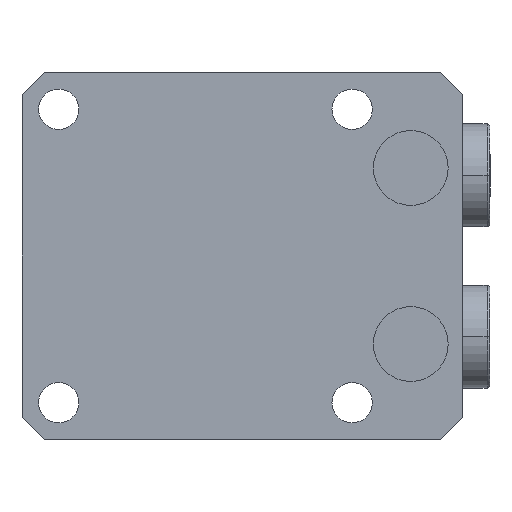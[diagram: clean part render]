
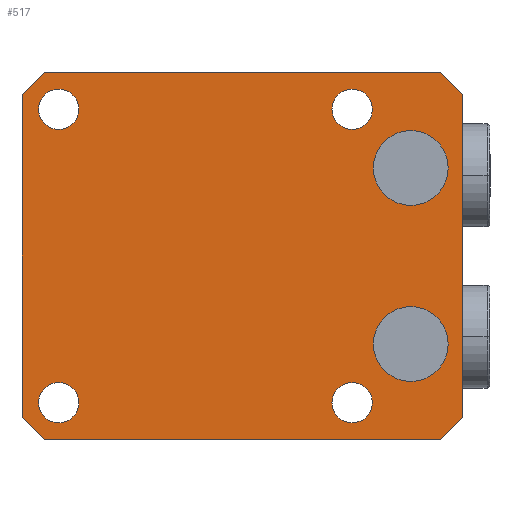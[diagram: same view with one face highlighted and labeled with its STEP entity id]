
A CAD part, front view. The second image highlights one B-rep face of the part: STEP entity #517.
In plain terms, the highlighted planar face has unit normal (0, -1, 0).
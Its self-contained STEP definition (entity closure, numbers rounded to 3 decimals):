
#196=PLANE('',#4556);
#297=FACE_BOUND('',#1014,.T.);
#298=FACE_BOUND('',#1015,.T.);
#299=FACE_BOUND('',#1016,.T.);
#300=FACE_BOUND('',#1017,.T.);
#301=FACE_BOUND('',#1018,.T.);
#302=FACE_BOUND('',#1019,.T.);
#303=FACE_BOUND('',#1020,.T.);
#517=ADVANCED_FACE('',(#297,#298,#299,#300,#301,#302,#303),#196,.T.);
#1014=EDGE_LOOP('',(#2189,#2190));
#1015=EDGE_LOOP('',(#2191,#2192));
#1016=EDGE_LOOP('',(#2193,#2194));
#1017=EDGE_LOOP('',(#2195,#2196));
#1018=EDGE_LOOP('',(#2197,#2198));
#1019=EDGE_LOOP('',(#2199,#2200));
#1020=EDGE_LOOP('',(#2201,#2202,#2203,#2204,#2205,#2206,#2207,#2208));
#1310=LINE('',#6876,#1640);
#1318=LINE('',#6896,#1648);
#1326=LINE('',#6911,#1656);
#1331=LINE('',#6922,#1661);
#1337=LINE('',#6939,#1667);
#1338=LINE('',#6940,#1668);
#1339=LINE('',#6941,#1669);
#1340=LINE('',#6942,#1670);
#1640=VECTOR('',#5260,1.);
#1648=VECTOR('',#5270,1.);
#1656=VECTOR('',#5280,1.);
#1661=VECTOR('',#5287,1.);
#1667=VECTOR('',#5299,1.);
#1668=VECTOR('',#5300,1.);
#1669=VECTOR('',#5301,1.);
#1670=VECTOR('',#5302,1.);
#2189=ORIENTED_EDGE('',*,*,#3757,.F.);
#2190=ORIENTED_EDGE('',*,*,#3608,.F.);
#2191=ORIENTED_EDGE('',*,*,#3758,.F.);
#2192=ORIENTED_EDGE('',*,*,#3612,.F.);
#2193=ORIENTED_EDGE('',*,*,#3726,.T.);
#2194=ORIENTED_EDGE('',*,*,#3669,.T.);
#2195=ORIENTED_EDGE('',*,*,#3722,.T.);
#2196=ORIENTED_EDGE('',*,*,#3677,.T.);
#2197=ORIENTED_EDGE('',*,*,#3720,.T.);
#2198=ORIENTED_EDGE('',*,*,#3681,.T.);
#2199=ORIENTED_EDGE('',*,*,#3724,.T.);
#2200=ORIENTED_EDGE('',*,*,#3673,.T.);
#2201=ORIENTED_EDGE('',*,*,#3750,.F.);
#2202=ORIENTED_EDGE('',*,*,#3759,.T.);
#2203=ORIENTED_EDGE('',*,*,#3728,.F.);
#2204=ORIENTED_EDGE('',*,*,#3760,.T.);
#2205=ORIENTED_EDGE('',*,*,#3737,.F.);
#2206=ORIENTED_EDGE('',*,*,#3761,.T.);
#2207=ORIENTED_EDGE('',*,*,#3745,.F.);
#2208=ORIENTED_EDGE('',*,*,#3762,.T.);
#3180=VERTEX_POINT('',#6395);
#3181=VERTEX_POINT('',#6397);
#3184=VERTEX_POINT('',#6404);
#3185=VERTEX_POINT('',#6406);
#3235=VERTEX_POINT('',#6622);
#3236=VERTEX_POINT('',#6623);
#3239=VERTEX_POINT('',#6631);
#3240=VERTEX_POINT('',#6632);
#3243=VERTEX_POINT('',#6640);
#3244=VERTEX_POINT('',#6641);
#3247=VERTEX_POINT('',#6649);
#3248=VERTEX_POINT('',#6650);
#3275=VERTEX_POINT('',#6877);
#3276=VERTEX_POINT('',#6878);
#3282=VERTEX_POINT('',#6897);
#3283=VERTEX_POINT('',#6898);
#3288=VERTEX_POINT('',#6912);
#3289=VERTEX_POINT('',#6913);
#3292=VERTEX_POINT('',#6921);
#3293=VERTEX_POINT('',#6923);
#3608=EDGE_CURVE('',#3180,#3181,#4203,.T.);
#3612=EDGE_CURVE('',#3184,#3185,#4205,.T.);
#3669=EDGE_CURVE('',#3235,#3236,#4221,.T.);
#3673=EDGE_CURVE('',#3239,#3240,#4223,.T.);
#3677=EDGE_CURVE('',#3243,#3244,#4225,.T.);
#3681=EDGE_CURVE('',#3247,#3248,#4227,.T.);
#3720=EDGE_CURVE('',#3248,#3247,#4235,.T.);
#3722=EDGE_CURVE('',#3244,#3243,#4237,.T.);
#3724=EDGE_CURVE('',#3240,#3239,#4239,.T.);
#3726=EDGE_CURVE('',#3236,#3235,#4241,.T.);
#3728=EDGE_CURVE('',#3275,#3276,#1310,.T.);
#3737=EDGE_CURVE('',#3282,#3283,#1318,.T.);
#3745=EDGE_CURVE('',#3288,#3289,#1326,.T.);
#3750=EDGE_CURVE('',#3292,#3293,#1331,.T.);
#3757=EDGE_CURVE('',#3181,#3180,#4243,.T.);
#3758=EDGE_CURVE('',#3185,#3184,#4244,.T.);
#3759=EDGE_CURVE('',#3292,#3276,#1337,.T.);
#3760=EDGE_CURVE('',#3275,#3283,#1338,.T.);
#3761=EDGE_CURVE('',#3282,#3289,#1339,.T.);
#3762=EDGE_CURVE('',#3288,#3293,#1340,.T.);
#4203=CIRCLE('',#4482,5.1);
#4205=CIRCLE('',#4485,5.1);
#4221=CIRCLE('',#4513,2.75);
#4223=CIRCLE('',#4516,2.75);
#4225=CIRCLE('',#4519,2.75);
#4227=CIRCLE('',#4522,2.75);
#4235=CIRCLE('',#4538,2.75);
#4237=CIRCLE('',#4541,2.75);
#4239=CIRCLE('',#4544,2.75);
#4241=CIRCLE('',#4547,2.75);
#4243=CIRCLE('',#4554,5.1);
#4244=CIRCLE('',#4555,5.1);
#4482=AXIS2_PLACEMENT_3D('',#6396,#5073,#5074);
#4485=AXIS2_PLACEMENT_3D('',#6405,#5081,#5082);
#4513=AXIS2_PLACEMENT_3D('',#6621,#5158,#5159);
#4516=AXIS2_PLACEMENT_3D('',#6630,#5166,#5167);
#4519=AXIS2_PLACEMENT_3D('',#6639,#5174,#5175);
#4522=AXIS2_PLACEMENT_3D('',#6648,#5182,#5183);
#4538=AXIS2_PLACEMENT_3D('',#6864,#5236,#5237);
#4541=AXIS2_PLACEMENT_3D('',#6867,#5242,#5243);
#4544=AXIS2_PLACEMENT_3D('',#6870,#5248,#5249);
#4547=AXIS2_PLACEMENT_3D('',#6873,#5254,#5255);
#4554=AXIS2_PLACEMENT_3D('',#6937,#5295,#5296);
#4555=AXIS2_PLACEMENT_3D('',#6938,#5297,#5298);
#4556=AXIS2_PLACEMENT_3D('',#6943,#5303,#5304);
#5073=DIRECTION('',(0.,-1.,0.));
#5074=DIRECTION('',(0.,0.,-1.));
#5081=DIRECTION('',(0.,-1.,0.));
#5082=DIRECTION('',(0.,0.,-1.));
#5158=DIRECTION('',(0.,1.,0.));
#5159=DIRECTION('',(0.,0.,-1.));
#5166=DIRECTION('',(0.,1.,0.));
#5167=DIRECTION('',(0.,0.,-1.));
#5174=DIRECTION('',(0.,1.,0.));
#5175=DIRECTION('',(0.,0.,-1.));
#5182=DIRECTION('',(0.,1.,0.));
#5183=DIRECTION('',(0.,0.,-1.));
#5236=DIRECTION('',(0.,1.,0.));
#5237=DIRECTION('',(0.,0.,-1.));
#5242=DIRECTION('',(0.,1.,0.));
#5243=DIRECTION('',(0.,0.,-1.));
#5248=DIRECTION('',(0.,1.,0.));
#5249=DIRECTION('',(0.,0.,-1.));
#5254=DIRECTION('',(0.,1.,0.));
#5255=DIRECTION('',(0.,0.,-1.));
#5260=DIRECTION('',(0.,0.,-1.));
#5270=DIRECTION('',(1.,0.,0.));
#5280=DIRECTION('',(0.,0.,1.));
#5287=DIRECTION('',(-1.,0.,0.));
#5295=DIRECTION('',(0.,-1.,0.));
#5296=DIRECTION('',(0.,0.,-1.));
#5297=DIRECTION('',(0.,-1.,0.));
#5298=DIRECTION('',(0.,0.,-1.));
#5299=DIRECTION('',(0.707,0.,0.707));
#5300=DIRECTION('',(-0.707,0.,0.707));
#5301=DIRECTION('',(-0.707,0.,-0.707));
#5302=DIRECTION('',(0.707,0.,-0.707));
#5303=DIRECTION('',(0.,-1.,0.));
#5304=DIRECTION('',(0.,0.,-1.));
#6395=CARTESIAN_POINT('',(-28.,-66.,-6.9));
#6396=CARTESIAN_POINT('',(-28.,-66.,-12.));
#6397=CARTESIAN_POINT('',(-28.,-66.,-17.1));
#6404=CARTESIAN_POINT('',(-28.,-66.,17.1));
#6405=CARTESIAN_POINT('',(-28.,-66.,12.));
#6406=CARTESIAN_POINT('',(-28.,-66.,6.9));
#6621=CARTESIAN_POINT('',(-20.,-66.,-20.));
#6622=CARTESIAN_POINT('',(-20.,-66.,-22.75));
#6623=CARTESIAN_POINT('',(-20.,-66.,-17.25));
#6630=CARTESIAN_POINT('',(20.,-66.,20.));
#6631=CARTESIAN_POINT('',(20.,-66.,17.25));
#6632=CARTESIAN_POINT('',(20.,-66.,22.75));
#6639=CARTESIAN_POINT('',(-20.,-66.,20.));
#6640=CARTESIAN_POINT('',(-20.,-66.,17.25));
#6641=CARTESIAN_POINT('',(-20.,-66.,22.75));
#6648=CARTESIAN_POINT('',(20.,-66.,-20.));
#6649=CARTESIAN_POINT('',(20.,-66.,-22.75));
#6650=CARTESIAN_POINT('',(20.,-66.,-17.25));
#6864=CARTESIAN_POINT('',(20.,-66.,-20.));
#6867=CARTESIAN_POINT('',(-20.,-66.,20.));
#6870=CARTESIAN_POINT('',(20.,-66.,20.));
#6873=CARTESIAN_POINT('',(-20.,-66.,-20.));
#6876=CARTESIAN_POINT('',(25.,-66.,-25.));
#6877=CARTESIAN_POINT('',(25.,-66.,22.));
#6878=CARTESIAN_POINT('',(25.,-66.,-22.));
#6896=CARTESIAN_POINT('',(25.,-66.,25.));
#6897=CARTESIAN_POINT('',(-32.,-66.,25.));
#6898=CARTESIAN_POINT('',(22.,-66.,25.));
#6911=CARTESIAN_POINT('',(-35.,-66.,25.));
#6912=CARTESIAN_POINT('',(-35.,-66.,-22.));
#6913=CARTESIAN_POINT('',(-35.,-66.,22.));
#6921=CARTESIAN_POINT('',(22.,-66.,-25.));
#6922=CARTESIAN_POINT('',(25.,-66.,-25.));
#6923=CARTESIAN_POINT('',(-32.,-66.,-25.));
#6937=CARTESIAN_POINT('',(-28.,-66.,-12.));
#6938=CARTESIAN_POINT('',(-28.,-66.,12.));
#6939=CARTESIAN_POINT('',(48.5,-66.,1.5));
#6940=CARTESIAN_POINT('',(23.5,-66.,23.5));
#6941=CARTESIAN_POINT('',(-3.5,-66.,53.5));
#6942=CARTESIAN_POINT('',(-28.5,-66.,-28.5));
#6943=CARTESIAN_POINT('',(25.,-66.,25.));
